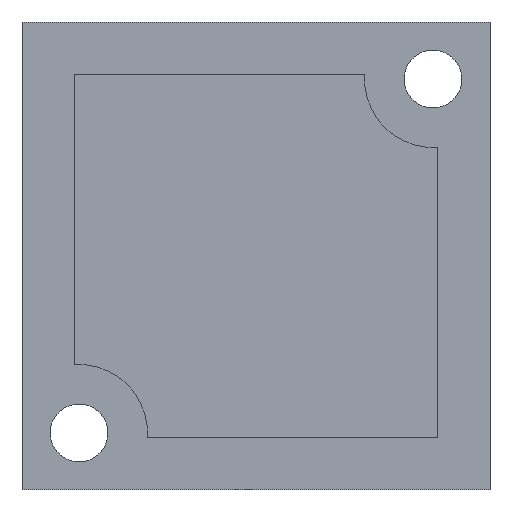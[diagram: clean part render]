
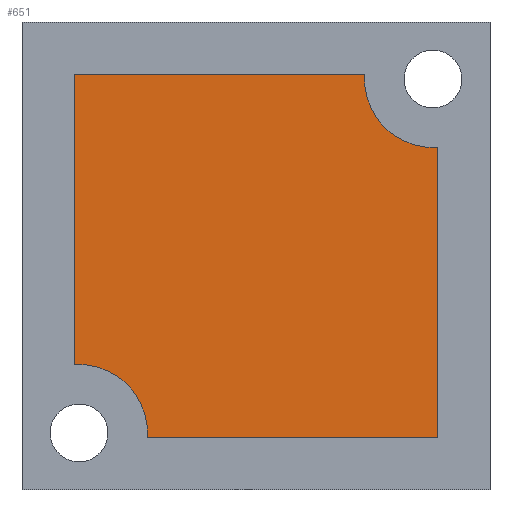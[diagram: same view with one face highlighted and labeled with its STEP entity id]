
A CAD part, left-side view. The second image highlights one B-rep face of the part: STEP entity #651.
In plain terms, the highlighted planar face has unit normal (-1, 0, 0).
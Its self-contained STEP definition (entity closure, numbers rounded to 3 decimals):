
#158 = PLANE('',#159);
#159 = AXIS2_PLACEMENT_3D('',#160,#161,#162);
#160 = CARTESIAN_POINT('',(-47.7,-3.9,-68.));
#161 = DIRECTION('',(-0.,1.,0.));
#162 = DIRECTION('',(0.,0.,1.));
#190 = CYLINDRICAL_SURFACE('',#191,2.6);
#191 = AXIS2_PLACEMENT_3D('',#192,#193,#194);
#192 = CARTESIAN_POINT('',(-48.2,-3.73,-54.37));
#193 = DIRECTION('',(1.,0.,0.));
#194 = DIRECTION('',(0.,0.,-1.));
#218 = PLANE('',#219);
#219 = AXIS2_PLACEMENT_3D('',#220,#221,#222);
#220 = CARTESIAN_POINT('',(-47.7,-3.9,-54.2));
#221 = DIRECTION('',(0.,0.,1.));
#222 = DIRECTION('',(1.,0.,-0.));
#245 = PLANE('',#246);
#246 = AXIS2_PLACEMENT_3D('',#247,#248,#249);
#247 = CARTESIAN_POINT('',(-47.7,9.9,-68.));
#248 = DIRECTION('',(-0.,1.,0.));
#249 = DIRECTION('',(0.,0.,1.));
#273 = CYLINDRICAL_SURFACE('',#274,2.6);
#274 = AXIS2_PLACEMENT_3D('',#275,#276,#277);
#275 = CARTESIAN_POINT('',(-48.2,9.73,-67.83));
#276 = DIRECTION('',(1.,0.,0.));
#277 = DIRECTION('',(0.,0.,-1.));
#299 = PLANE('',#300);
#300 = AXIS2_PLACEMENT_3D('',#301,#302,#303);
#301 = CARTESIAN_POINT('',(-47.7,-3.9,-68.));
#302 = DIRECTION('',(0.,0.,1.));
#303 = DIRECTION('',(1.,0.,-0.));
#582 = VERTEX_POINT('',#583);
#583 = CARTESIAN_POINT('',(-47.7,7.136,-68.));
#602 = EDGE_CURVE('',#603,#582,#605,.T.);
#603 = VERTEX_POINT('',#604);
#604 = CARTESIAN_POINT('',(-47.7,-3.9,-68.));
#605 = SURFACE_CURVE('',#606,(#610,#617),.PCURVE_S1.);
#606 = LINE('',#607,#608);
#607 = CARTESIAN_POINT('',(-47.7,-3.9,-68.));
#608 = VECTOR('',#609,1.);
#609 = DIRECTION('',(-0.,1.,0.));
#610 = PCURVE('',#299,#611);
#611 = DEFINITIONAL_REPRESENTATION('',(#612),#616);
#612 = LINE('',#613,#614);
#613 = CARTESIAN_POINT('',(0.,0.));
#614 = VECTOR('',#615,1.);
#615 = DIRECTION('',(0.,1.));
#616 = ( GEOMETRIC_REPRESENTATION_CONTEXT(2) 
PARAMETRIC_REPRESENTATION_CONTEXT() REPRESENTATION_CONTEXT('2D SPACE',''
  ) );
#617 = PCURVE('',#618,#623);
#618 = PLANE('',#619);
#619 = AXIS2_PLACEMENT_3D('',#620,#621,#622);
#620 = CARTESIAN_POINT('',(-47.7,-3.9,-68.));
#621 = DIRECTION('',(1.,0.,-0.));
#622 = DIRECTION('',(0.,0.,1.));
#623 = DEFINITIONAL_REPRESENTATION('',(#624),#628);
#624 = LINE('',#625,#626);
#625 = CARTESIAN_POINT('',(0.,0.));
#626 = VECTOR('',#627,1.);
#627 = DIRECTION('',(0.,-1.));
#628 = ( GEOMETRIC_REPRESENTATION_CONTEXT(2) 
PARAMETRIC_REPRESENTATION_CONTEXT() REPRESENTATION_CONTEXT('2D SPACE',''
  ) );
#651 = ADVANCED_FACE('',(#652),#618,.F.);
#652 = FACE_BOUND('',#653,.F.);
#653 = EDGE_LOOP('',(#654,#677,#678,#702,#725,#748));
#654 = ORIENTED_EDGE('',*,*,#655,.F.);
#655 = EDGE_CURVE('',#603,#656,#658,.T.);
#656 = VERTEX_POINT('',#657);
#657 = CARTESIAN_POINT('',(-47.7,-3.9,-56.964));
#658 = SURFACE_CURVE('',#659,(#663,#670),.PCURVE_S1.);
#659 = LINE('',#660,#661);
#660 = CARTESIAN_POINT('',(-47.7,-3.9,-68.));
#661 = VECTOR('',#662,1.);
#662 = DIRECTION('',(0.,0.,1.));
#663 = PCURVE('',#618,#664);
#664 = DEFINITIONAL_REPRESENTATION('',(#665),#669);
#665 = LINE('',#666,#667);
#666 = CARTESIAN_POINT('',(0.,0.));
#667 = VECTOR('',#668,1.);
#668 = DIRECTION('',(1.,0.));
#669 = ( GEOMETRIC_REPRESENTATION_CONTEXT(2) 
PARAMETRIC_REPRESENTATION_CONTEXT() REPRESENTATION_CONTEXT('2D SPACE',''
  ) );
#670 = PCURVE('',#158,#671);
#671 = DEFINITIONAL_REPRESENTATION('',(#672),#676);
#672 = LINE('',#673,#674);
#673 = CARTESIAN_POINT('',(0.,0.));
#674 = VECTOR('',#675,1.);
#675 = DIRECTION('',(1.,0.));
#676 = ( GEOMETRIC_REPRESENTATION_CONTEXT(2) 
PARAMETRIC_REPRESENTATION_CONTEXT() REPRESENTATION_CONTEXT('2D SPACE',''
  ) );
#677 = ORIENTED_EDGE('',*,*,#602,.T.);
#678 = ORIENTED_EDGE('',*,*,#679,.F.);
#679 = EDGE_CURVE('',#680,#582,#682,.T.);
#680 = VERTEX_POINT('',#681);
#681 = CARTESIAN_POINT('',(-47.7,9.9,-65.236));
#682 = SURFACE_CURVE('',#683,(#688,#695),.PCURVE_S1.);
#683 = CIRCLE('',#684,2.6);
#684 = AXIS2_PLACEMENT_3D('',#685,#686,#687);
#685 = CARTESIAN_POINT('',(-47.7,9.73,-67.83));
#686 = DIRECTION('',(1.,0.,0.));
#687 = DIRECTION('',(0.,0.,-1.));
#688 = PCURVE('',#618,#689);
#689 = DEFINITIONAL_REPRESENTATION('',(#690),#694);
#690 = CIRCLE('',#691,2.6);
#691 = AXIS2_PLACEMENT_2D('',#692,#693);
#692 = CARTESIAN_POINT('',(0.17,-13.63));
#693 = DIRECTION('',(-1.,0.));
#694 = ( GEOMETRIC_REPRESENTATION_CONTEXT(2) 
PARAMETRIC_REPRESENTATION_CONTEXT() REPRESENTATION_CONTEXT('2D SPACE',''
  ) );
#695 = PCURVE('',#273,#696);
#696 = DEFINITIONAL_REPRESENTATION('',(#697),#701);
#697 = LINE('',#698,#699);
#698 = CARTESIAN_POINT('',(0.,0.5));
#699 = VECTOR('',#700,1.);
#700 = DIRECTION('',(1.,0.));
#701 = ( GEOMETRIC_REPRESENTATION_CONTEXT(2) 
PARAMETRIC_REPRESENTATION_CONTEXT() REPRESENTATION_CONTEXT('2D SPACE',''
  ) );
#702 = ORIENTED_EDGE('',*,*,#703,.T.);
#703 = EDGE_CURVE('',#680,#704,#706,.T.);
#704 = VERTEX_POINT('',#705);
#705 = CARTESIAN_POINT('',(-47.7,9.9,-54.2));
#706 = SURFACE_CURVE('',#707,(#711,#718),.PCURVE_S1.);
#707 = LINE('',#708,#709);
#708 = CARTESIAN_POINT('',(-47.7,9.9,-68.));
#709 = VECTOR('',#710,1.);
#710 = DIRECTION('',(0.,0.,1.));
#711 = PCURVE('',#618,#712);
#712 = DEFINITIONAL_REPRESENTATION('',(#713),#717);
#713 = LINE('',#714,#715);
#714 = CARTESIAN_POINT('',(0.,-13.8));
#715 = VECTOR('',#716,1.);
#716 = DIRECTION('',(1.,0.));
#717 = ( GEOMETRIC_REPRESENTATION_CONTEXT(2) 
PARAMETRIC_REPRESENTATION_CONTEXT() REPRESENTATION_CONTEXT('2D SPACE',''
  ) );
#718 = PCURVE('',#245,#719);
#719 = DEFINITIONAL_REPRESENTATION('',(#720),#724);
#720 = LINE('',#721,#722);
#721 = CARTESIAN_POINT('',(0.,0.));
#722 = VECTOR('',#723,1.);
#723 = DIRECTION('',(1.,0.));
#724 = ( GEOMETRIC_REPRESENTATION_CONTEXT(2) 
PARAMETRIC_REPRESENTATION_CONTEXT() REPRESENTATION_CONTEXT('2D SPACE',''
  ) );
#725 = ORIENTED_EDGE('',*,*,#726,.F.);
#726 = EDGE_CURVE('',#727,#704,#729,.T.);
#727 = VERTEX_POINT('',#728);
#728 = CARTESIAN_POINT('',(-47.7,-1.136,-54.2));
#729 = SURFACE_CURVE('',#730,(#734,#741),.PCURVE_S1.);
#730 = LINE('',#731,#732);
#731 = CARTESIAN_POINT('',(-47.7,-3.9,-54.2));
#732 = VECTOR('',#733,1.);
#733 = DIRECTION('',(-0.,1.,0.));
#734 = PCURVE('',#618,#735);
#735 = DEFINITIONAL_REPRESENTATION('',(#736),#740);
#736 = LINE('',#737,#738);
#737 = CARTESIAN_POINT('',(13.8,0.));
#738 = VECTOR('',#739,1.);
#739 = DIRECTION('',(0.,-1.));
#740 = ( GEOMETRIC_REPRESENTATION_CONTEXT(2) 
PARAMETRIC_REPRESENTATION_CONTEXT() REPRESENTATION_CONTEXT('2D SPACE',''
  ) );
#741 = PCURVE('',#218,#742);
#742 = DEFINITIONAL_REPRESENTATION('',(#743),#747);
#743 = LINE('',#744,#745);
#744 = CARTESIAN_POINT('',(0.,0.));
#745 = VECTOR('',#746,1.);
#746 = DIRECTION('',(0.,1.));
#747 = ( GEOMETRIC_REPRESENTATION_CONTEXT(2) 
PARAMETRIC_REPRESENTATION_CONTEXT() REPRESENTATION_CONTEXT('2D SPACE',''
  ) );
#748 = ORIENTED_EDGE('',*,*,#749,.T.);
#749 = EDGE_CURVE('',#727,#656,#750,.T.);
#750 = SURFACE_CURVE('',#751,(#756,#767),.PCURVE_S1.);
#751 = CIRCLE('',#752,2.6);
#752 = AXIS2_PLACEMENT_3D('',#753,#754,#755);
#753 = CARTESIAN_POINT('',(-47.7,-3.73,-54.37));
#754 = DIRECTION('',(-1.,0.,0.));
#755 = DIRECTION('',(0.,0.998,0.065));
#756 = PCURVE('',#618,#757);
#757 = DEFINITIONAL_REPRESENTATION('',(#758),#766);
#758 = ( BOUNDED_CURVE() B_SPLINE_CURVE(2,(#759,#760,#761,#762,#763,#764
,#765),.UNSPECIFIED.,.T.,.F.) B_SPLINE_CURVE_WITH_KNOTS((1,2,2,2,2,1),(
    -2.094,0.,2.094,4.189,6.283,
8.378),.UNSPECIFIED.) CURVE() GEOMETRIC_REPRESENTATION_ITEM() 
RATIONAL_B_SPLINE_CURVE((1.,0.5,1.,0.5,1.,0.5,1.)) REPRESENTATION_ITEM(
  '') );
#759 = CARTESIAN_POINT('',(13.8,-2.764));
#760 = CARTESIAN_POINT('',(9.306,-3.059));
#761 = CARTESIAN_POINT('',(11.298,0.98));
#762 = CARTESIAN_POINT('',(13.29,5.019));
#763 = CARTESIAN_POINT('',(15.792,1.274));
#764 = CARTESIAN_POINT('',(18.294,-2.47));
#765 = CARTESIAN_POINT('',(13.8,-2.764));
#766 = ( GEOMETRIC_REPRESENTATION_CONTEXT(2) 
PARAMETRIC_REPRESENTATION_CONTEXT() REPRESENTATION_CONTEXT('2D SPACE',''
  ) );
#767 = PCURVE('',#190,#768);
#768 = DEFINITIONAL_REPRESENTATION('',(#769),#773);
#769 = LINE('',#770,#771);
#770 = CARTESIAN_POINT('',(7.919,0.5));
#771 = VECTOR('',#772,1.);
#772 = DIRECTION('',(-1.,-0.));
#773 = ( GEOMETRIC_REPRESENTATION_CONTEXT(2) 
PARAMETRIC_REPRESENTATION_CONTEXT() REPRESENTATION_CONTEXT('2D SPACE',''
  ) );
